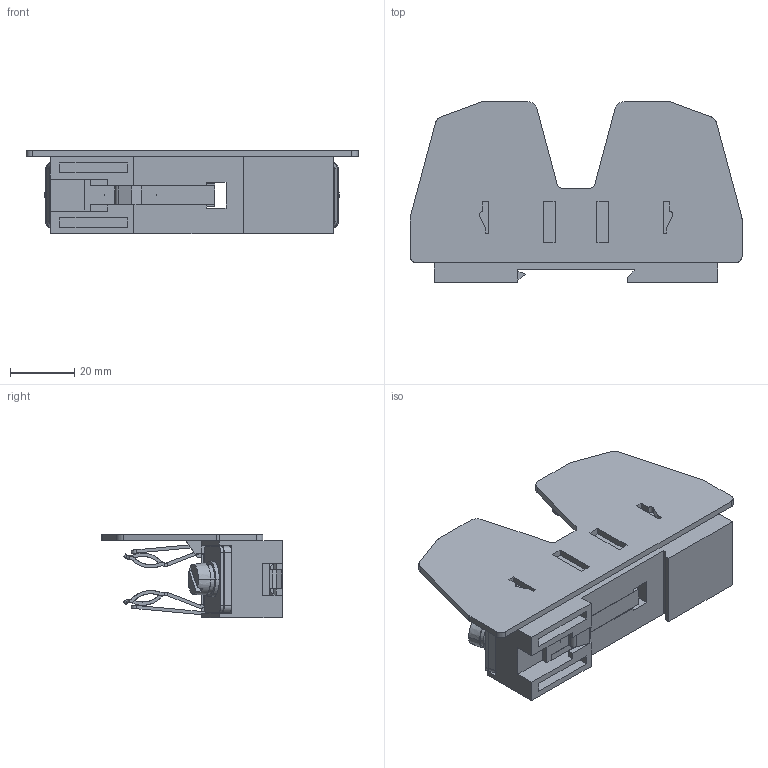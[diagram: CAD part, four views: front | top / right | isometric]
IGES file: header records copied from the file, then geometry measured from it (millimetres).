
Start section: SolidWorks IGES file using analytic representation for surfaces
Global section: file name: U:\14_RD\05_Technical_office\04_Office\Hrdinova\3D modely - IGES\Varius - Ostatní\SPV14.IGS; native system: SolidWorks 2011; preprocessor: SolidWorks 2011; author: adhrja3; date: 170621.065728; units: millimetre
Bounding box: 103 x 56 x 26 mm (x, y, z)
Surface area: 40280.2 mm2 (no closed solid volume)
Topology: 0 solids, 0 shells, 683 faces, 6817 edges, 6817 vertices
Faces by surface type: bspline 426, revolution 257
